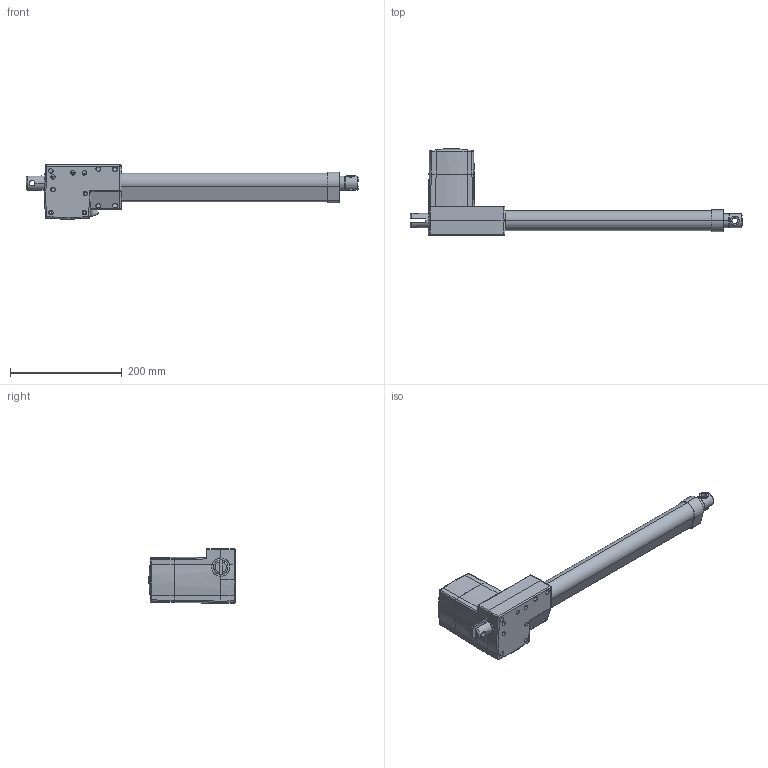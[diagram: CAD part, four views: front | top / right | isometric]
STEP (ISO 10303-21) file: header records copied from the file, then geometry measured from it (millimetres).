
FILE_DESCRIPTION (( 'STEP AP203' ), '1' );
FILE_NAME ('LAM3_S350.STEP', '2013-12-23T06:09:48', ( '' ), ( '' ), 'SwSTEP 2.0', 'SolidWorks 2010', '' );
FILE_SCHEMA (( 'CONFIG_CONTROL_DESIGN' ));
Length unit declared in the file: millimetre
Products named in the file (1): LAM3_S350
Bounding box: 595 x 155 x 98 mm (x, y, z)
Surface area: 168954.5 mm2 (no closed solid volume)
Topology: 0 solids, 10 shells, 365 faces, 1333 edges, 930 vertices
Faces by surface type: plane 153, cylinder 123, bspline 47, cone 42
Entity records: 16469 total; most frequent: CARTESIAN_POINT 6290, ORIENTED_EDGE 2103, DIRECTION 1845, EDGE_CURVE 1313, VERTEX_POINT 930, AXIS2_PLACEMENT_3D 665, LINE 515, VECTOR 515
